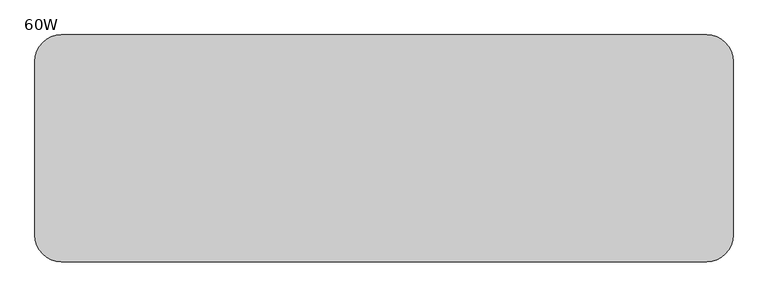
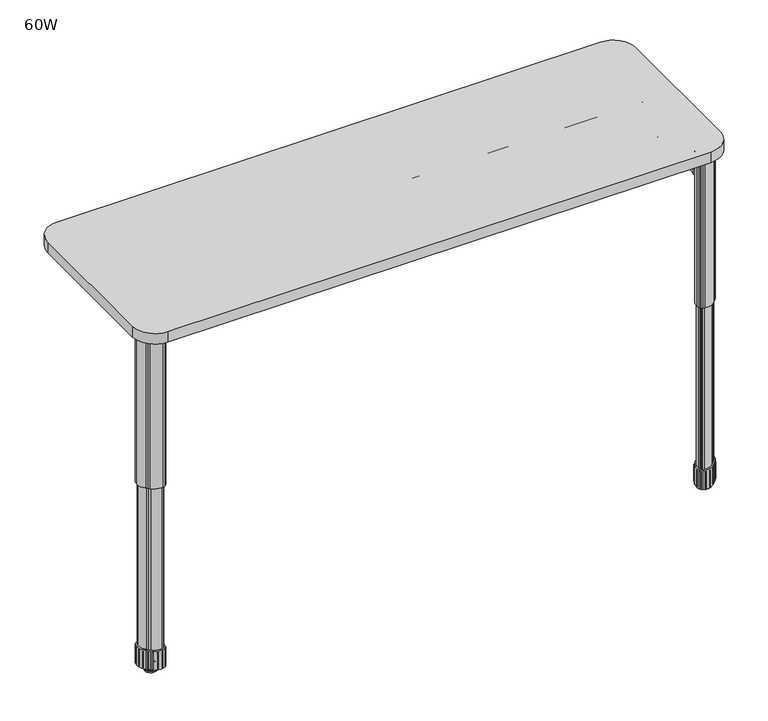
"""IFC4 building model written with IfcOpenShell, lengths in millimetres: furniture geometry, SmithSystem_AM_Table_Education_Interchange_Activity_20D : 60W."""

from ifc_helpers import new_model, si_unit, point, frame, frame_2d, origin, origin_with_axes, place, context, project, spatial, polyline, circle_curve, ellipse_curve, trimmed, segment, composite_curve, outline, extrude, source, transform, mapped, element, save
from ifc_brep_helpers import plane_surface, cylinder_surface, revolved_surface, advanced_brep


def furniture_60w_a7632f70(model_context):
    return source(origin(), model_context, "Body", "SolidModel", [
        extrude(outline(composite_curve([segment(polyline([(1453.4549731, 71.2321565), (1457.0470756, 74.824259), (1460.639178, 78.4163614)]), True, "CONTINUOUS"), segment(trimmed(circle_curve(frame_2d((1483.6806347, 55.3749047)), 32.5855406), [point((1460.639178, 78.4163614))], [point((1487.6518132, 87.7175576))], False, "CARTESIAN"), True, "CONTINUOUS"), segment(trimmed(circle_curve(frame_2d((1485.2540831, 68.1896136)), 19.6745954), [point((1487.6518132, 87.7175576))], [point((1492.8048334, 86.3576041))], False, "CARTESIAN"), True, "CONTINUOUS"), segment(trimmed(circle_curve(frame_2d((1489.3695797, 78.0919809)), 8.9510611), [point((1492.8048334, 86.3576041))], [point((1495.6989357, 84.4213369))], False, "CARTESIAN"), True, "CONTINUOUS"), segment(polyline([(1495.6989357, 84.4213369), (1496.4343195, 83.6859531), (1497.1697032, 82.9505693)]), True, "CONTINUOUS"), segment(trimmed(circle_curve(frame_2d((1490.8403472, 76.6212133)), 8.9510611), [point((1497.1697032, 82.9505693))], [point((1499.1059704, 80.056467))], False, "CARTESIAN"), True, "CONTINUOUS"), segment(trimmed(circle_curve(frame_2d((1480.93798, 72.5057168)), 19.6745954), [point((1499.1059704, 80.056467))], [point((1500.465924, 74.9034468))], False, "CARTESIAN"), True, "CONTINUOUS"), segment(trimmed(circle_curve(frame_2d((1468.123271, 70.9322684)), 32.5855406), [point((1500.465924, 74.9034468))], [point((1491.1647278, 47.8908116))], False, "CARTESIAN"), True, "CONTINUOUS"), segment(polyline([(1491.1647278, 47.8908116), (1487.5726253, 44.2987092), (1483.9805229, 40.7066067)]), True, "CONTINUOUS"), segment(trimmed(circle_curve(frame_2d((1460.9390661, 63.7480635)), 32.5855406), [point((1483.9805229, 40.7066067))], [point((1456.9678877, 31.4054105))], False, "CARTESIAN"), True, "CONTINUOUS"), segment(trimmed(circle_curve(frame_2d((1459.3656177, 50.9333545)), 19.6745954), [point((1456.9678877, 31.4054105))], [point((1451.8148675, 32.7653641))], False, "CARTESIAN"), True, "CONTINUOUS"), segment(trimmed(circle_curve(frame_2d((1455.2501212, 41.0309873)), 8.9510611), [point((1451.8148675, 32.7653641))], [point((1448.9207652, 34.7016313))], False, "CARTESIAN"), True, "CONTINUOUS"), segment(polyline([(1448.9207652, 34.7016313), (1448.1853814, 35.4370151), (1447.4499976, 36.1723988)]), True, "CONTINUOUS"), segment(trimmed(circle_curve(frame_2d((1453.7793536, 42.5017548)), 8.9510611), [point((1447.4499976, 36.1723988))], [point((1445.5137305, 39.0665011))], False, "CARTESIAN"), True, "CONTINUOUS"), segment(trimmed(circle_curve(frame_2d((1463.6817209, 46.6172514)), 19.6745954), [point((1445.5137305, 39.0665011))], [point((1444.1537769, 44.2195213))], False, "CARTESIAN"), True, "CONTINUOUS"), segment(trimmed(circle_curve(frame_2d((1476.4964298, 48.1906998)), 32.5855406), [point((1444.1537769, 44.2195213))], [point((1453.4549731, 71.2321565))], False, "CARTESIAN"), True, "CONTINUOUS")], self_intersect=False)), frame((0.0, 0.0, 12.7079691), z_axis=(0.0, 0.0, 1.0), x_axis=(1.0, 0.0, 0.0)), (0.0, 0.0, 1.0), 50.791766),
        extrude(outline(composite_curve([segment(trimmed(circle_curve(frame_2d((1472.3098504, 59.5614841)), 15.24), [point((1483.0861578, 70.3377914))], [point((1461.5335431, 48.7851767))], False, "CARTESIAN"), True, "CONTINUOUS"), segment(trimmed(circle_curve(frame_2d((1472.3098504, 59.5614841)), 15.24), [point((1461.5335431, 48.7851767))], [point((1483.0861578, 70.3377914))], False, "CARTESIAN"), True, "CONTINUOUS")], self_intersect=False)), origin_with_axes(), (0.0, 0.0, 1.0), 4.0499223),
        extrude(outline(composite_curve([segment(trimmed(circle_curve(frame_2d((1487.5726253, 44.2987092)), 1.27), [point((1488.4706509, 45.1967348))], [point((1486.6745997, 43.4006836))], False, "CARTESIAN"), True, "CONTINUOUS"), segment(polyline([(1486.6745997, 43.4006836), (1487.5726253, 44.2987092), (1488.4706509, 45.1967348)]), True, "CONTINUOUS")], self_intersect=False)), frame((0.0, 0.0, 16.2275456), z_axis=(0.0, 0.0, 1.0), x_axis=(1.0, 0.0, 0.0)), (0.0, 0.0, 1.0), 43.7457423),
        extrude(outline(composite_curve([segment(trimmed(circle_curve(frame_2d((1496.4080101, 83.6596437)), 1.27), [point((1495.5099845, 84.5576694))], [point((1497.3060357, 82.7616181))], False, "CARTESIAN"), True, "CONTINUOUS"), segment(polyline([(1497.3060357, 82.7616181), (1496.4080101, 83.6596437), (1495.5099845, 84.5576694)]), True, "CONTINUOUS")], self_intersect=False)), frame((0.0, 0.0, 16.2275456), z_axis=(0.0, 0.0, 1.0), x_axis=(1.0, 0.0, 0.0)), (0.0, 0.0, 1.0), 43.7457423),
        extrude(outline(composite_curve([segment(polyline([(1447.3136652, 36.36135), (1448.2116908, 35.4633244), (1449.1097164, 34.5652988)]), True, "CONTINUOUS"), segment(trimmed(circle_curve(frame_2d((1448.2116908, 35.4633244)), 1.27), [point((1449.1097164, 34.5652988))], [point((1447.3136652, 36.36135))], False, "CARTESIAN"), True, "CONTINUOUS")], self_intersect=False)), frame((0.0, 0.0, 16.2275456), z_axis=(0.0, 0.0, 1.0), x_axis=(1.0, 0.0, 0.0)), (0.0, 0.0, 1.0), 43.7457423),
        extrude(outline(composite_curve([segment(polyline([(1456.8120338, 31.4439485), (1458.0779787, 31.3425404), (1459.3439236, 31.2411324)]), True, "CONTINUOUS"), segment(trimmed(circle_curve(frame_2d((1458.0779787, 31.3425404)), 1.27), [point((1459.3439236, 31.2411324))], [point((1456.8120338, 31.4439485))], False, "CARTESIAN"), True, "CONTINUOUS")], self_intersect=False)), frame((0.0, 0.0, 16.2275456), z_axis=(0.0, 0.0, 1.0), x_axis=(1.0, 0.0, 0.0)), (0.0, 0.0, 1.0), 43.7457423),
        extrude(outline(composite_curve([segment(polyline([(1467.8909581, 31.960326), (1469.1209477, 32.2765941), (1470.3509373, 32.5928623)]), True, "CONTINUOUS"), segment(trimmed(circle_curve(frame_2d((1469.1209477, 32.2765941)), 1.27), [point((1470.3509373, 32.5928623))], [point((1467.8909581, 31.960326))], False, "CARTESIAN"), True, "CONTINUOUS")], self_intersect=False)), frame((0.0, 0.0, 16.2275456), z_axis=(0.0, 0.0, 1.0), x_axis=(1.0, 0.0, 0.0)), (0.0, 0.0, 1.0), 43.7457423),
        extrude(outline(composite_curve([segment(polyline([(1478.2294057, 36.1581671), (1479.2770478, 36.8760432), (1480.3246899, 37.5939193)]), True, "CONTINUOUS"), segment(trimmed(circle_curve(frame_2d((1479.2770478, 36.8760432)), 1.27), [point((1480.3246899, 37.5939193))], [point((1478.2294057, 36.1581671))], False, "CARTESIAN"), True, "CONTINUOUS")], self_intersect=False)), frame((0.0, 0.0, 16.2275456), z_axis=(0.0, 0.0, 1.0), x_axis=(1.0, 0.0, 0.0)), (0.0, 0.0, 1.0), 43.7457423),
        extrude(outline(composite_curve([segment(trimmed(circle_curve(frame_2d((1500.5287941, 73.7933558)), 1.27), [point((1500.427386, 75.0593007))], [point((1500.6302021, 72.5274109))], False, "CARTESIAN"), True, "CONTINUOUS"), segment(polyline([(1500.6302021, 72.5274109), (1500.5287941, 73.7933558), (1500.427386, 75.0593007)]), True, "CONTINUOUS")], self_intersect=False)), frame((0.0, 0.0, 16.2275456), z_axis=(0.0, 0.0, 1.0), x_axis=(1.0, 0.0, 0.0)), (0.0, 0.0, 1.0), 43.7457423),
        extrude(outline(composite_curve([segment(trimmed(circle_curve(frame_2d((1499.5947404, 62.7503868)), 1.27), [point((1499.9110085, 63.9803764))], [point((1499.2784722, 61.5203972))], False, "CARTESIAN"), True, "CONTINUOUS"), segment(polyline([(1499.2784722, 61.5203972), (1499.5947404, 62.7503868), (1499.9110085, 63.9803764)]), True, "CONTINUOUS")], self_intersect=False)), frame((0.0, 0.0, 16.2275456), z_axis=(0.0, 0.0, 1.0), x_axis=(1.0, 0.0, 0.0)), (0.0, 0.0, 1.0), 43.7457423),
        extrude(outline(composite_curve([segment(trimmed(circle_curve(frame_2d((1494.9952913, 52.5942867)), 1.27), [point((1495.7131674, 53.6419288))], [point((1494.2774152, 51.5466446))], False, "CARTESIAN"), True, "CONTINUOUS"), segment(polyline([(1494.2774152, 51.5466446), (1494.9952913, 52.5942867), (1495.7131674, 53.6419288)]), True, "CONTINUOUS")], self_intersect=False)), frame((0.0, 0.0, 16.2275456), z_axis=(0.0, 0.0, 1.0), x_axis=(1.0, 0.0, 0.0)), (0.0, 0.0, 1.0), 43.7457423),
        extrude(outline(composite_curve([segment(polyline([(1457.9451012, 75.7222846), (1457.0470756, 74.824259), (1456.1490499, 73.9262333)]), True, "CONTINUOUS"), segment(trimmed(circle_curve(frame_2d((1457.0470756, 74.824259)), 1.27), [point((1456.1490499, 73.9262333))], [point((1457.9451012, 75.7222846))], False, "CARTESIAN"), True, "CONTINUOUS")], self_intersect=False)), frame((0.0, 0.0, 16.2275456), z_axis=(0.0, 0.0, 1.0), x_axis=(1.0, 0.0, 0.0)), (0.0, 0.0, 1.0), 43.7457423),
        extrude(outline(composite_curve([segment(trimmed(circle_curve(frame_2d((1444.0909068, 45.3296123)), 1.27), [point((1444.1923149, 44.0636675))], [point((1443.9894988, 46.5955572))], False, "CARTESIAN"), True, "CONTINUOUS"), segment(polyline([(1443.9894988, 46.5955572), (1444.0909068, 45.3296123), (1444.1923149, 44.0636675)]), True, "CONTINUOUS")], self_intersect=False)), frame((0.0, 0.0, 16.2275456), z_axis=(0.0, 0.0, 1.0), x_axis=(1.0, 0.0, 0.0)), (0.0, 0.0, 1.0), 43.7457423),
        extrude(outline(composite_curve([segment(trimmed(circle_curve(frame_2d((1445.0249605, 56.3725813)), 1.27), [point((1444.7086924, 55.1425917))], [point((1445.3412287, 57.602571))], False, "CARTESIAN"), True, "CONTINUOUS"), segment(polyline([(1445.3412287, 57.602571), (1445.0249605, 56.3725813), (1444.7086924, 55.1425917)]), True, "CONTINUOUS")], self_intersect=False)), frame((0.0, 0.0, 16.2275456), z_axis=(0.0, 0.0, 1.0), x_axis=(1.0, 0.0, 0.0)), (0.0, 0.0, 1.0), 43.7457423),
        extrude(outline(composite_curve([segment(trimmed(circle_curve(frame_2d((1449.6244096, 66.5286815)), 1.27), [point((1448.9065335, 65.4810394))], [point((1450.3422857, 67.5763235))], False, "CARTESIAN"), True, "CONTINUOUS"), segment(polyline([(1450.3422857, 67.5763235), (1449.6244096, 66.5286815), (1448.9065335, 65.4810394)]), True, "CONTINUOUS")], self_intersect=False)), frame((0.0, 0.0, 16.2275456), z_axis=(0.0, 0.0, 1.0), x_axis=(1.0, 0.0, 0.0)), (0.0, 0.0, 1.0), 43.7457423),
        extrude(outline(composite_curve([segment(polyline([(1487.807667, 87.6790197), (1486.5417222, 87.7804277), (1485.2757773, 87.8818357)]), True, "CONTINUOUS"), segment(trimmed(circle_curve(frame_2d((1486.5417222, 87.7804277)), 1.27), [point((1485.2757773, 87.8818357))], [point((1487.807667, 87.6790197))], False, "CARTESIAN"), True, "CONTINUOUS")], self_intersect=False)), frame((0.0, 0.0, 16.2275456), z_axis=(0.0, 0.0, 1.0), x_axis=(1.0, 0.0, 0.0)), (0.0, 0.0, 1.0), 43.7457423),
        extrude(outline(composite_curve([segment(polyline([(1476.7287428, 87.1626422), (1475.4987532, 86.846374), (1474.2687635, 86.5301059)]), True, "CONTINUOUS"), segment(trimmed(circle_curve(frame_2d((1475.4987532, 86.846374)), 1.27), [point((1474.2687635, 86.5301059))], [point((1476.7287428, 87.1626422))], False, "CARTESIAN"), True, "CONTINUOUS")], self_intersect=False)), frame((0.0, 0.0, 16.2275456), z_axis=(0.0, 0.0, 1.0), x_axis=(1.0, 0.0, 0.0)), (0.0, 0.0, 1.0), 43.7457423),
        extrude(outline(composite_curve([segment(polyline([(1466.3902951, 82.964801), (1465.3426531, 82.2469249), (1464.295011, 81.5290489)]), True, "CONTINUOUS"), segment(trimmed(circle_curve(frame_2d((1465.3426531, 82.2469249)), 1.27), [point((1464.295011, 81.5290489))], [point((1466.3902951, 82.964801))], False, "CARTESIAN"), True, "CONTINUOUS")], self_intersect=False)), frame((0.0, 0.0, 16.2275456), z_axis=(0.0, 0.0, 1.0), x_axis=(1.0, 0.0, 0.0)), (0.0, 0.0, 1.0), 43.7457423),
        extrude(outline(composite_curve([segment(trimmed(circle_curve(frame_2d((1483.6806347, 55.3749047)), 28.7755406), [point((1463.3332548, 75.7222846))], [point((1487.187491, 83.9359568))], False, "CARTESIAN"), True, "CONTINUOUS"), segment(trimmed(circle_curve(frame_2d((1485.2540831, 68.1896136)), 15.8645954), [point((1487.187491, 83.9359568))], [point((1491.342625, 82.8393592))], False, "CARTESIAN"), True, "CONTINUOUS"), segment(trimmed(circle_curve(frame_2d((1489.3695797, 78.0919809)), 5.1410611), [point((1491.342625, 82.8393592))], [point((1493.0048588, 81.72726))], False, "CARTESIAN"), True, "CONTINUOUS"), segment(polyline([(1493.0048588, 81.72726), (1493.7402426, 80.9918762), (1494.4756264, 80.2564925)]), True, "CONTINUOUS"), segment(trimmed(circle_curve(frame_2d((1490.8403472, 76.6212133)), 5.1410611), [point((1494.4756264, 80.2564925))], [point((1495.5877256, 78.5942586))], False, "CARTESIAN"), True, "CONTINUOUS"), segment(trimmed(circle_curve(frame_2d((1480.93798, 72.5057168)), 15.8645954), [point((1495.5877256, 78.5942586))], [point((1496.6843231, 74.4391246))], False, "CARTESIAN"), True, "CONTINUOUS"), segment(trimmed(circle_curve(frame_2d((1468.123271, 70.9322684)), 28.7755406), [point((1496.6843231, 74.4391246))], [point((1488.4706509, 50.5848885))], False, "CARTESIAN"), True, "CONTINUOUS"), segment(polyline([(1488.4706509, 50.5848885), (1484.8785485, 46.992786), (1481.286446, 43.4006836)]), True, "CONTINUOUS"), segment(trimmed(circle_curve(frame_2d((1460.9390661, 63.7480635)), 28.7755406), [point((1481.286446, 43.4006836))], [point((1457.4322099, 35.1870114))], False, "CARTESIAN"), True, "CONTINUOUS"), segment(trimmed(circle_curve(frame_2d((1459.3656177, 50.9333545)), 15.8645954), [point((1457.4322099, 35.1870114))], [point((1453.2770759, 36.2836089))], False, "CARTESIAN"), True, "CONTINUOUS"), segment(trimmed(circle_curve(frame_2d((1455.2501212, 41.0309873)), 5.1410611), [point((1453.2770759, 36.2836089))], [point((1451.614842, 37.3957081))], False, "CARTESIAN"), True, "CONTINUOUS"), segment(polyline([(1451.614842, 37.3957081), (1450.8794583, 38.1310919), (1450.1440745, 38.8664757)]), True, "CONTINUOUS"), segment(trimmed(circle_curve(frame_2d((1453.7793536, 42.5017548)), 5.1410611), [point((1450.1440745, 38.8664757))], [point((1449.0319753, 40.5287095))], False, "CARTESIAN"), True, "CONTINUOUS"), segment(trimmed(circle_curve(frame_2d((1463.6817209, 46.6172514)), 15.8645954), [point((1449.0319753, 40.5287095))], [point((1447.9353777, 44.6838435))], False, "CARTESIAN"), True, "CONTINUOUS"), segment(trimmed(circle_curve(frame_2d((1476.4964298, 48.1906998)), 28.7755406), [point((1447.9353777, 44.6838435))], [point((1456.1490499, 68.5380797))], False, "CARTESIAN"), True, "CONTINUOUS"), segment(polyline([(1456.1490499, 68.5380797), (1459.7411524, 72.1301821), (1463.3332548, 75.7222846)]), True, "CONTINUOUS")], self_intersect=False)), frame((0.0, 0.0, 63.4997351), z_axis=(0.0, 0.0, 1.0), x_axis=(1.0, 0.0, 0.0)), (0.0, 0.0, 1.0), 440.4486802),
        extrude(outline(composite_curve([segment(trimmed(circle_curve(frame_2d((1460.9390661, 63.7480635)), 32.5855406), [point((1483.9805229, 40.7066067))], [point((1456.9678877, 31.4054105))], False, "CARTESIAN"), True, "CONTINUOUS"), segment(trimmed(circle_curve(frame_2d((1459.3656177, 50.9333545)), 19.6745954), [point((1456.9678877, 31.4054105))], [point((1451.8148675, 32.7653641))], False, "CARTESIAN"), True, "CONTINUOUS"), segment(trimmed(circle_curve(frame_2d((1455.2501212, 41.0309873)), 8.9510611), [point((1451.8148675, 32.7653641))], [point((1448.9207652, 34.7016313))], False, "CARTESIAN"), True, "CONTINUOUS"), segment(polyline([(1448.9207652, 34.7016313), (1448.1853814, 35.4370151), (1447.4499976, 36.1723988)]), True, "CONTINUOUS"), segment(trimmed(circle_curve(frame_2d((1453.7793536, 42.5017548)), 8.9510611), [point((1447.4499976, 36.1723988))], [point((1445.5137305, 39.0665011))], False, "CARTESIAN"), True, "CONTINUOUS"), segment(trimmed(circle_curve(frame_2d((1463.6817209, 46.6172514)), 19.6745954), [point((1445.5137305, 39.0665011))], [point((1444.1537769, 44.2195213))], False, "CARTESIAN"), True, "CONTINUOUS"), segment(trimmed(circle_curve(frame_2d((1476.4964298, 48.1906998)), 32.5855406), [point((1444.1537769, 44.2195213))], [point((1453.4549731, 71.2321565))], False, "CARTESIAN"), True, "CONTINUOUS"), segment(polyline([(1453.4549731, 71.2321565), (1457.0470756, 74.824259), (1460.639178, 78.4163614)]), True, "CONTINUOUS"), segment(trimmed(circle_curve(frame_2d((1483.6806347, 55.3749047)), 32.5855406), [point((1460.639178, 78.4163614))], [point((1487.6518132, 87.7175576))], False, "CARTESIAN"), True, "CONTINUOUS"), segment(trimmed(circle_curve(frame_2d((1485.2540831, 68.1896136)), 19.6745954), [point((1487.6518132, 87.7175576))], [point((1492.8048334, 86.3576041))], False, "CARTESIAN"), True, "CONTINUOUS"), segment(trimmed(circle_curve(frame_2d((1489.3695797, 78.0919809)), 8.9510611), [point((1492.8048334, 86.3576041))], [point((1495.6989357, 84.4213369))], False, "CARTESIAN"), True, "CONTINUOUS"), segment(polyline([(1495.6989357, 84.4213369), (1496.4343195, 83.6859531), (1497.1697032, 82.9505693)]), True, "CONTINUOUS"), segment(trimmed(circle_curve(frame_2d((1490.8403472, 76.6212133)), 8.9510611), [point((1497.1697032, 82.9505693))], [point((1499.1059704, 80.056467))], False, "CARTESIAN"), True, "CONTINUOUS"), segment(trimmed(circle_curve(frame_2d((1480.93798, 72.5057168)), 19.6745954), [point((1499.1059704, 80.056467))], [point((1500.465924, 74.9034468))], False, "CARTESIAN"), True, "CONTINUOUS"), segment(trimmed(circle_curve(frame_2d((1468.123271, 70.9322684)), 32.5855406), [point((1500.465924, 74.9034468))], [point((1491.1647278, 47.8908116))], False, "CARTESIAN"), True, "CONTINUOUS"), segment(polyline([(1491.1647278, 47.8908116), (1487.5726253, 44.2987092), (1483.9805229, 40.7066067)]), True, "CONTINUOUS")], self_intersect=False)), frame((0.0, 0.0, 503.9484153), z_axis=(0.0, 0.0, 1.0), x_axis=(1.0, 0.0, 0.0)), (0.0, 0.0, 1.0), 405.2764888),
        extrude(outline(polyline([(1473.606676, 85.1609527), (1446.7650478, 58.3193245), (1443.4201876, 61.6641848), (1470.2618157, 88.5058129), (1473.606676, 85.1609527)])), frame((0.0, 0.0, 853.198382), z_axis=(0.0, 0.0, 1.0), x_axis=(1.0, 0.0, 0.0)), (0.0, 0.0, 1.0), 56.0265221),
        advanced_brep(
        [(40.9483, 49.1331837, 4.0499223), (61.8049007, 69.9897844, 4.0499223), (51.3766004, 59.5614841, 4.0499223), (39.1522488, 47.3371325, 6.5899223), (63.6009519, 71.7858356, 6.5899223), (39.1522488, 47.3371325, 10.1679691), (63.6009519, 71.7858356, 10.1679691), (40.9483, 49.1331837, 12.7079691), (61.8049007, 69.9897844, 12.7079691), (51.3766004, 59.5614841, 12.7079691)],
        [
            (0, 1, circle_curve(frame((51.3766004, 59.5614841, 4.0499223), z_axis=(0.0, 0.0, -1.0), x_axis=(0.7071067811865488, 0.7071067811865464, 0.0)), 14.7478438)),
            (1, 2),
            (2, 0),
            (1, 0, circle_curve(frame((51.3766004, 59.5614841, 4.0499223), z_axis=(0.0, 0.0, -1.0), x_axis=(0.7071067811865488, 0.7071067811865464, 0.0)), 14.7478438)),
            (3, 4, circle_curve(frame((51.3766004, 59.5614841, 6.5899223), z_axis=(0.0, 0.0, -1.0), x_axis=(0.7071067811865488, 0.7071067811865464, 0.0)), 17.2878438)),
            (4, 1, circle_curve(frame((61.8049007, 69.9897844, 6.5899223), z_axis=(-0.7071067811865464, 0.7071067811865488, 0.0), x_axis=(0.7071067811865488, 0.7071067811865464, 0.0)), 2.54)),
            (0, 3, circle_curve(frame((40.9483, 49.1331837, 6.5899223), z_axis=(-0.707106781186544, 0.7071067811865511, 0.0), x_axis=(-0.7071067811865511, -0.707106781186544, 0.0)), 2.54)),
            (4, 3, circle_curve(frame((51.3766004, 59.5614841, 6.5899223), z_axis=(0.0, 0.0, -1.0), x_axis=(0.7071067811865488, 0.7071067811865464, 0.0)), 17.2878438)),
            (5, 6, circle_curve(frame((51.3766004, 59.5614841, 10.1679691), z_axis=(0.0, 0.0, -1.0), x_axis=(0.7071067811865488, 0.7071067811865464, 0.0)), 17.2878438)),
            (6, 4),
            (3, 5),
            (6, 5, circle_curve(frame((51.3766004, 59.5614841, 10.1679691), z_axis=(0.0, 0.0, -1.0), x_axis=(0.7071067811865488, 0.7071067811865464, 0.0)), 17.2878438)),
            (7, 8, circle_curve(frame((51.3766004, 59.5614841, 12.7079691), z_axis=(0.0, 0.0, -1.0), x_axis=(0.7071067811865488, 0.7071067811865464, 0.0)), 14.7478438)),
            (8, 6, circle_curve(frame((61.8049007, 69.9897844, 10.1679691), z_axis=(-0.7071067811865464, 0.7071067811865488, 0.0), x_axis=(0.7071067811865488, 0.7071067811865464, 0.0)), 2.54)),
            (5, 7, circle_curve(frame((40.9483, 49.1331837, 10.1679691), z_axis=(-0.707106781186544, 0.7071067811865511, 0.0), x_axis=(-0.7071067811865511, -0.707106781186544, 0.0)), 2.54)),
            (8, 7, circle_curve(frame((51.3766004, 59.5614841, 12.7079691), z_axis=(0.0, 0.0, -1.0), x_axis=(0.7071067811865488, 0.7071067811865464, 0.0)), 14.7478438)),
            (9, 8),
            (7, 9),
        ],
        [
            plane_surface(frame((51.3766004, 59.5614841, 4.0499223), z_axis=(0.0, 0.0, -1.0), x_axis=(0.7071067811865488, 0.7071067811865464, 0.0))),
            revolved_surface(trimmed(ellipse_curve(frame((61.8049007, 69.9897844, 6.5899223), z_axis=(0.7071067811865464, -0.7071067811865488, 0.0), x_axis=(0.7071067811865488, 0.7071067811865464, 0.0)), 2.54, 2.54), [point((61.8049007, 69.9897844, 4.0499223))], [point((63.6009519, 71.7858356, 6.5899223))], True, "CARTESIAN"), (51.3766004, 59.5614841, 3.1355675), (0.0, 0.0, 1.0)),
            cylinder_surface(frame((51.3766004, 59.5614841, 3.1355675), z_axis=(0.0, 0.0, 1.0), x_axis=(0.7071067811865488, 0.7071067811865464, 0.0)), 17.2878438),
            revolved_surface(trimmed(ellipse_curve(frame((61.8049007, 69.9897844, 10.1679691), z_axis=(0.7071067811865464, -0.7071067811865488, 0.0), x_axis=(0.7071067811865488, 0.7071067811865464, 0.0)), 2.54, 2.54), [point((63.6009519, 71.7858356, 10.1679691))], [point((61.8049007, 69.9897844, 12.7079691))], True, "CARTESIAN"), (51.3766004, 59.5614841, 3.1355675), (0.0, 0.0, 1.0)),
            plane_surface(frame((51.3766004, 59.5614841, 12.7079691), z_axis=(0.0, 0.0, 1.0), x_axis=(0.7071067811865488, 0.7071067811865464, 0.0))),
        ],
        [
            (0, [[1, 2, 3]]),
            (0, [[4, -3, -2]]),
            (1, [[5, 6, -1, 7]]),
            (1, [[8, -7, -4, -6]]),
            (2, [[9, 10, -5, 11]]),
            (2, [[12, -11, -8, -10]]),
            (3, [[13, 14, -9, 15]]),
            (3, [[16, -15, -12, -14]]),
            (4, [[17, -13, 18]]),
            (4, [[-18, -16, -17]]),
        ],
    ),
        extrude(outline(composite_curve([segment(trimmed(circle_curve(frame_2d((47.190021, 48.1906998)), 32.5855406), [point((70.2314777, 71.2321565))], [point((79.5326739, 44.2195213))], False, "CARTESIAN"), True, "CONTINUOUS"), segment(trimmed(circle_curve(frame_2d((60.0047299, 46.6172514)), 19.6745954), [point((79.5326739, 44.2195213))], [point((78.1727203, 39.0665011))], False, "CARTESIAN"), True, "CONTINUOUS"), segment(trimmed(circle_curve(frame_2d((69.9070972, 42.5017548)), 8.9510611), [point((78.1727203, 39.0665011))], [point((76.2364532, 36.1723988))], False, "CARTESIAN"), True, "CONTINUOUS"), segment(polyline([(76.2364532, 36.1723988), (75.5010694, 35.4370151), (74.7656856, 34.7016313)]), True, "CONTINUOUS"), segment(trimmed(circle_curve(frame_2d((68.4363296, 41.0309873)), 8.9510611), [point((74.7656856, 34.7016313))], [point((71.8715833, 32.7653641))], False, "CARTESIAN"), True, "CONTINUOUS"), segment(trimmed(circle_curve(frame_2d((64.3208331, 50.9333545)), 19.6745954), [point((71.8715833, 32.7653641))], [point((66.7185631, 31.4054105))], False, "CARTESIAN"), True, "CONTINUOUS"), segment(trimmed(circle_curve(frame_2d((62.7473847, 63.7480635)), 32.5855406), [point((66.7185631, 31.4054105))], [point((39.7059279, 40.7066067))], False, "CARTESIAN"), True, "CONTINUOUS"), segment(polyline([(39.7059279, 40.7066067), (36.1138255, 44.2987092), (32.521723, 47.8908116)]), True, "CONTINUOUS"), segment(trimmed(circle_curve(frame_2d((55.5631798, 70.9322684)), 32.5855406), [point((32.521723, 47.8908116))], [point((23.2205268, 74.9034468))], False, "CARTESIAN"), True, "CONTINUOUS"), segment(trimmed(circle_curve(frame_2d((42.7484708, 72.5057168)), 19.6745954), [point((23.2205268, 74.9034468))], [point((24.5804804, 80.056467))], False, "CARTESIAN"), True, "CONTINUOUS"), segment(trimmed(circle_curve(frame_2d((32.8461036, 76.6212133)), 8.9510611), [point((24.5804804, 80.056467))], [point((26.5167476, 82.9505693))], False, "CARTESIAN"), True, "CONTINUOUS"), segment(polyline([(26.5167476, 82.9505693), (27.2521313, 83.6859531), (27.9875151, 84.4213369)]), True, "CONTINUOUS"), segment(trimmed(circle_curve(frame_2d((34.3168711, 78.0919809)), 8.9510611), [point((27.9875151, 84.4213369))], [point((30.8816174, 86.3576041))], False, "CARTESIAN"), True, "CONTINUOUS"), segment(trimmed(circle_curve(frame_2d((38.4323677, 68.1896136)), 19.6745954), [point((30.8816174, 86.3576041))], [point((36.0346376, 87.7175576))], False, "CARTESIAN"), True, "CONTINUOUS"), segment(trimmed(circle_curve(frame_2d((40.0058161, 55.3749047)), 32.5855406), [point((36.0346376, 87.7175576))], [point((63.0472728, 78.4163614))], False, "CARTESIAN"), True, "CONTINUOUS"), segment(polyline([(63.0472728, 78.4163614), (66.6393752, 74.824259), (70.2314777, 71.2321565)]), True, "CONTINUOUS")], self_intersect=False)), frame((0.0, 0.0, 12.7079691), z_axis=(0.0, 0.0, 1.0), x_axis=(1.0, 0.0, 0.0)), (0.0, 0.0, 1.0), 50.791766),
        extrude(outline(composite_curve([segment(trimmed(circle_curve(frame_2d((51.3766004, 59.5614841)), 15.24), [point((40.600293, 70.3377914))], [point((62.1529077, 48.7851767))], False, "CARTESIAN"), True, "CONTINUOUS"), segment(trimmed(circle_curve(frame_2d((51.3766004, 59.5614841)), 15.24), [point((62.1529077, 48.7851767))], [point((40.600293, 70.3377914))], False, "CARTESIAN"), True, "CONTINUOUS")], self_intersect=False)), origin_with_axes(), (0.0, 0.0, 1.0), 4.0499223),
        extrude(outline(composite_curve([segment(polyline([(35.2157999, 45.1967348), (36.1138255, 44.2987092), (37.0118511, 43.4006836)]), True, "CONTINUOUS"), segment(trimmed(circle_curve(frame_2d((36.1138255, 44.2987092)), 1.27), [point((37.0118511, 43.4006836))], [point((35.2157999, 45.1967348))], False, "CARTESIAN"), True, "CONTINUOUS")], self_intersect=False)), frame((0.0, 0.0, 16.2275456), z_axis=(0.0, 0.0, 1.0), x_axis=(1.0, 0.0, 0.0)), (0.0, 0.0, 1.0), 43.7457423),
        extrude(outline(composite_curve([segment(polyline([(28.1764663, 84.5576694), (27.2784407, 83.6596437), (26.3804151, 82.7616181)]), True, "CONTINUOUS"), segment(trimmed(circle_curve(frame_2d((27.2784407, 83.6596437)), 1.27), [point((26.3804151, 82.7616181))], [point((28.1764663, 84.5576694))], False, "CARTESIAN"), True, "CONTINUOUS")], self_intersect=False)), frame((0.0, 0.0, 16.2275456), z_axis=(0.0, 0.0, 1.0), x_axis=(1.0, 0.0, 0.0)), (0.0, 0.0, 1.0), 43.7457423),
        extrude(outline(composite_curve([segment(trimmed(circle_curve(frame_2d((75.47476, 35.4633244)), 1.27), [point((76.3727856, 36.36135))], [point((74.5767344, 34.5652988))], False, "CARTESIAN"), True, "CONTINUOUS"), segment(polyline([(74.5767344, 34.5652988), (75.47476, 35.4633244), (76.3727856, 36.36135)]), True, "CONTINUOUS")], self_intersect=False)), frame((0.0, 0.0, 16.2275456), z_axis=(0.0, 0.0, 1.0), x_axis=(1.0, 0.0, 0.0)), (0.0, 0.0, 1.0), 43.7457423),
        extrude(outline(composite_curve([segment(trimmed(circle_curve(frame_2d((65.6084721, 31.3425404)), 1.27), [point((66.874417, 31.4439485))], [point((64.3425272, 31.2411324))], False, "CARTESIAN"), True, "CONTINUOUS"), segment(polyline([(64.3425272, 31.2411324), (65.6084721, 31.3425404), (66.874417, 31.4439485)]), True, "CONTINUOUS")], self_intersect=False)), frame((0.0, 0.0, 16.2275456), z_axis=(0.0, 0.0, 1.0), x_axis=(1.0, 0.0, 0.0)), (0.0, 0.0, 1.0), 43.7457423),
        extrude(outline(composite_curve([segment(trimmed(circle_curve(frame_2d((54.5655031, 32.2765941)), 1.27), [point((55.7954927, 31.960326))], [point((53.3355135, 32.5928623))], False, "CARTESIAN"), True, "CONTINUOUS"), segment(polyline([(53.3355135, 32.5928623), (54.5655031, 32.2765941), (55.7954927, 31.960326)]), True, "CONTINUOUS")], self_intersect=False)), frame((0.0, 0.0, 16.2275456), z_axis=(0.0, 0.0, 1.0), x_axis=(1.0, 0.0, 0.0)), (0.0, 0.0, 1.0), 43.7457423),
        extrude(outline(composite_curve([segment(trimmed(circle_curve(frame_2d((44.409403, 36.8760432)), 1.27), [point((45.4570451, 36.1581671))], [point((43.3617609, 37.5939193))], False, "CARTESIAN"), True, "CONTINUOUS"), segment(polyline([(43.3617609, 37.5939193), (44.409403, 36.8760432), (45.4570451, 36.1581671)]), True, "CONTINUOUS")], self_intersect=False)), frame((0.0, 0.0, 16.2275456), z_axis=(0.0, 0.0, 1.0), x_axis=(1.0, 0.0, 0.0)), (0.0, 0.0, 1.0), 43.7457423),
        extrude(outline(composite_curve([segment(polyline([(23.2590648, 75.0593007), (23.1576567, 73.7933558), (23.0562487, 72.5274109)]), True, "CONTINUOUS"), segment(trimmed(circle_curve(frame_2d((23.1576567, 73.7933558)), 1.27), [point((23.0562487, 72.5274109))], [point((23.2590648, 75.0593007))], False, "CARTESIAN"), True, "CONTINUOUS")], self_intersect=False)), frame((0.0, 0.0, 16.2275456), z_axis=(0.0, 0.0, 1.0), x_axis=(1.0, 0.0, 0.0)), (0.0, 0.0, 1.0), 43.7457423),
        extrude(outline(composite_curve([segment(polyline([(23.7754423, 63.9803764), (24.0917104, 62.7503868), (24.4079786, 61.5203972)]), True, "CONTINUOUS"), segment(trimmed(circle_curve(frame_2d((24.0917104, 62.7503868)), 1.27), [point((24.4079786, 61.5203972))], [point((23.7754423, 63.9803764))], False, "CARTESIAN"), True, "CONTINUOUS")], self_intersect=False)), frame((0.0, 0.0, 16.2275456), z_axis=(0.0, 0.0, 1.0), x_axis=(1.0, 0.0, 0.0)), (0.0, 0.0, 1.0), 43.7457423),
        extrude(outline(composite_curve([segment(polyline([(27.9732834, 53.6419288), (28.6911595, 52.5942867), (29.4090356, 51.5466446)]), True, "CONTINUOUS"), segment(trimmed(circle_curve(frame_2d((28.6911595, 52.5942867)), 1.27), [point((29.4090356, 51.5466446))], [point((27.9732834, 53.6419288))], False, "CARTESIAN"), True, "CONTINUOUS")], self_intersect=False)), frame((0.0, 0.0, 16.2275456), z_axis=(0.0, 0.0, 1.0), x_axis=(1.0, 0.0, 0.0)), (0.0, 0.0, 1.0), 43.7457423),
        extrude(outline(composite_curve([segment(trimmed(circle_curve(frame_2d((66.6393752, 74.824259)), 1.27), [point((65.7413496, 75.7222846))], [point((67.5374009, 73.9262333))], False, "CARTESIAN"), True, "CONTINUOUS"), segment(polyline([(67.5374009, 73.9262333), (66.6393752, 74.824259), (65.7413496, 75.7222846)]), True, "CONTINUOUS")], self_intersect=False)), frame((0.0, 0.0, 16.2275456), z_axis=(0.0, 0.0, 1.0), x_axis=(1.0, 0.0, 0.0)), (0.0, 0.0, 1.0), 43.7457423),
        extrude(outline(composite_curve([segment(polyline([(79.4941359, 44.0636675), (79.595544, 45.3296123), (79.696952, 46.5955572)]), True, "CONTINUOUS"), segment(trimmed(circle_curve(frame_2d((79.595544, 45.3296123)), 1.27), [point((79.696952, 46.5955572))], [point((79.4941359, 44.0636675))], False, "CARTESIAN"), True, "CONTINUOUS")], self_intersect=False)), frame((0.0, 0.0, 16.2275456), z_axis=(0.0, 0.0, 1.0), x_axis=(1.0, 0.0, 0.0)), (0.0, 0.0, 1.0), 43.7457423),
        extrude(outline(composite_curve([segment(polyline([(78.9777584, 55.1425917), (78.6614903, 56.3725813), (78.3452221, 57.602571)]), True, "CONTINUOUS"), segment(trimmed(circle_curve(frame_2d((78.6614903, 56.3725813)), 1.27), [point((78.3452221, 57.602571))], [point((78.9777584, 55.1425917))], False, "CARTESIAN"), True, "CONTINUOUS")], self_intersect=False)), frame((0.0, 0.0, 16.2275456), z_axis=(0.0, 0.0, 1.0), x_axis=(1.0, 0.0, 0.0)), (0.0, 0.0, 1.0), 43.7457423),
        extrude(outline(composite_curve([segment(polyline([(74.7799173, 65.4810394), (74.0620412, 66.5286815), (73.3441651, 67.5763235)]), True, "CONTINUOUS"), segment(trimmed(circle_curve(frame_2d((74.0620412, 66.5286815)), 1.27), [point((73.3441651, 67.5763235))], [point((74.7799173, 65.4810394))], False, "CARTESIAN"), True, "CONTINUOUS")], self_intersect=False)), frame((0.0, 0.0, 16.2275456), z_axis=(0.0, 0.0, 1.0), x_axis=(1.0, 0.0, 0.0)), (0.0, 0.0, 1.0), 43.7457423),
        extrude(outline(composite_curve([segment(trimmed(circle_curve(frame_2d((37.1447286, 87.7804277)), 1.27), [point((35.8787838, 87.6790197))], [point((38.4106735, 87.8818357))], False, "CARTESIAN"), True, "CONTINUOUS"), segment(polyline([(38.4106735, 87.8818357), (37.1447286, 87.7804277), (35.8787838, 87.6790197)]), True, "CONTINUOUS")], self_intersect=False)), frame((0.0, 0.0, 16.2275456), z_axis=(0.0, 0.0, 1.0), x_axis=(1.0, 0.0, 0.0)), (0.0, 0.0, 1.0), 43.7457423),
        extrude(outline(composite_curve([segment(trimmed(circle_curve(frame_2d((48.1876976, 86.846374)), 1.27), [point((46.957708, 87.1626422))], [point((49.4176872, 86.5301059))], False, "CARTESIAN"), True, "CONTINUOUS"), segment(polyline([(49.4176872, 86.5301059), (48.1876976, 86.846374), (46.957708, 87.1626422)]), True, "CONTINUOUS")], self_intersect=False)), frame((0.0, 0.0, 16.2275456), z_axis=(0.0, 0.0, 1.0), x_axis=(1.0, 0.0, 0.0)), (0.0, 0.0, 1.0), 43.7457423),
        extrude(outline(composite_curve([segment(trimmed(circle_curve(frame_2d((58.3437977, 82.2469249)), 1.27), [point((57.2961557, 82.964801))], [point((59.3914398, 81.5290489))], False, "CARTESIAN"), True, "CONTINUOUS"), segment(polyline([(59.3914398, 81.5290489), (58.3437977, 82.2469249), (57.2961557, 82.964801)]), True, "CONTINUOUS")], self_intersect=False)), frame((0.0, 0.0, 16.2275456), z_axis=(0.0, 0.0, 1.0), x_axis=(1.0, 0.0, 0.0)), (0.0, 0.0, 1.0), 43.7457423),
        extrude(outline(composite_curve([segment(polyline([(60.353196, 75.7222846), (63.9452984, 72.1301821), (67.5374009, 68.5380797)]), True, "CONTINUOUS"), segment(trimmed(circle_curve(frame_2d((47.190021, 48.1906998)), 28.7755406), [point((67.5374009, 68.5380797))], [point((75.7510731, 44.6838435))], False, "CARTESIAN"), True, "CONTINUOUS"), segment(trimmed(circle_curve(frame_2d((60.0047299, 46.6172514)), 15.8645954), [point((75.7510731, 44.6838435))], [point((74.6544755, 40.5287095))], False, "CARTESIAN"), True, "CONTINUOUS"), segment(trimmed(circle_curve(frame_2d((69.9070972, 42.5017548)), 5.1410611), [point((74.6544755, 40.5287095))], [point((73.5423763, 38.8664757))], False, "CARTESIAN"), True, "CONTINUOUS"), segment(polyline([(73.5423763, 38.8664757), (72.8069925, 38.1310919), (72.0716088, 37.3957081)]), True, "CONTINUOUS"), segment(trimmed(circle_curve(frame_2d((68.4363296, 41.0309873)), 5.1410611), [point((72.0716088, 37.3957081))], [point((70.4093749, 36.2836089))], False, "CARTESIAN"), True, "CONTINUOUS"), segment(trimmed(circle_curve(frame_2d((64.3208331, 50.9333545)), 15.8645954), [point((70.4093749, 36.2836089))], [point((66.2542409, 35.1870114))], False, "CARTESIAN"), True, "CONTINUOUS"), segment(trimmed(circle_curve(frame_2d((62.7473847, 63.7480635)), 28.7755406), [point((66.2542409, 35.1870114))], [point((42.4000048, 43.4006836))], False, "CARTESIAN"), True, "CONTINUOUS"), segment(polyline([(42.4000048, 43.4006836), (38.8079023, 46.992786), (35.2157999, 50.5848885)]), True, "CONTINUOUS"), segment(trimmed(circle_curve(frame_2d((55.5631798, 70.9322684)), 28.7755406), [point((35.2157999, 50.5848885))], [point((27.0021277, 74.4391246))], False, "CARTESIAN"), True, "CONTINUOUS"), segment(trimmed(circle_curve(frame_2d((42.7484708, 72.5057168)), 15.8645954), [point((27.0021277, 74.4391246))], [point((28.0987252, 78.5942586))], False, "CARTESIAN"), True, "CONTINUOUS"), segment(trimmed(circle_curve(frame_2d((32.8461036, 76.6212133)), 5.1410611), [point((28.0987252, 78.5942586))], [point((29.2108244, 80.2564925))], False, "CARTESIAN"), True, "CONTINUOUS"), segment(polyline([(29.2108244, 80.2564925), (29.9462082, 80.9918762), (30.681592, 81.72726)]), True, "CONTINUOUS"), segment(trimmed(circle_curve(frame_2d((34.3168711, 78.0919809)), 5.1410611), [point((30.681592, 81.72726))], [point((32.3438258, 82.8393592))], False, "CARTESIAN"), True, "CONTINUOUS"), segment(trimmed(circle_curve(frame_2d((38.4323677, 68.1896136)), 15.8645954), [point((32.3438258, 82.8393592))], [point((36.4989598, 83.9359568))], False, "CARTESIAN"), True, "CONTINUOUS"), segment(trimmed(circle_curve(frame_2d((40.0058161, 55.3749047)), 28.7755406), [point((36.4989598, 83.9359568))], [point((60.353196, 75.7222846))], False, "CARTESIAN"), True, "CONTINUOUS")], self_intersect=False)), frame((0.0, 0.0, 63.4997351), z_axis=(0.0, 0.0, 1.0), x_axis=(1.0, 0.0, 0.0)), (0.0, 0.0, 1.0), 440.4486802),
        extrude(outline(composite_curve([segment(polyline([(39.7059279, 40.7066067), (36.1138255, 44.2987092), (32.521723, 47.8908116)]), True, "CONTINUOUS"), segment(trimmed(circle_curve(frame_2d((55.5631798, 70.9322684)), 32.5855406), [point((32.521723, 47.8908116))], [point((23.2205268, 74.9034468))], False, "CARTESIAN"), True, "CONTINUOUS"), segment(trimmed(circle_curve(frame_2d((42.7484708, 72.5057168)), 19.6745954), [point((23.2205268, 74.9034468))], [point((24.5804804, 80.056467))], False, "CARTESIAN"), True, "CONTINUOUS"), segment(trimmed(circle_curve(frame_2d((32.8461036, 76.6212133)), 8.9510611), [point((24.5804804, 80.056467))], [point((26.5167476, 82.9505693))], False, "CARTESIAN"), True, "CONTINUOUS"), segment(polyline([(26.5167476, 82.9505693), (27.2521313, 83.6859531), (27.9875151, 84.4213369)]), True, "CONTINUOUS"), segment(trimmed(circle_curve(frame_2d((34.3168711, 78.0919809)), 8.9510611), [point((27.9875151, 84.4213369))], [point((30.8816174, 86.3576041))], False, "CARTESIAN"), True, "CONTINUOUS"), segment(trimmed(circle_curve(frame_2d((38.4323677, 68.1896136)), 19.6745954), [point((30.8816174, 86.3576041))], [point((36.0346376, 87.7175576))], False, "CARTESIAN"), True, "CONTINUOUS"), segment(trimmed(circle_curve(frame_2d((40.0058161, 55.3749047)), 32.5855406), [point((36.0346376, 87.7175576))], [point((63.0472728, 78.4163614))], False, "CARTESIAN"), True, "CONTINUOUS"), segment(polyline([(63.0472728, 78.4163614), (66.6393752, 74.824259), (70.2314777, 71.2321565)]), True, "CONTINUOUS"), segment(trimmed(circle_curve(frame_2d((47.190021, 48.1906998)), 32.5855406), [point((70.2314777, 71.2321565))], [point((79.5326739, 44.2195213))], False, "CARTESIAN"), True, "CONTINUOUS"), segment(trimmed(circle_curve(frame_2d((60.0047299, 46.6172514)), 19.6745954), [point((79.5326739, 44.2195213))], [point((78.1727203, 39.0665011))], False, "CARTESIAN"), True, "CONTINUOUS"), segment(trimmed(circle_curve(frame_2d((69.9070972, 42.5017548)), 8.9510611), [point((78.1727203, 39.0665011))], [point((76.2364532, 36.1723988))], False, "CARTESIAN"), True, "CONTINUOUS"), segment(polyline([(76.2364532, 36.1723988), (75.5010694, 35.4370151), (74.7656856, 34.7016313)]), True, "CONTINUOUS"), segment(trimmed(circle_curve(frame_2d((68.4363296, 41.0309873)), 8.9510611), [point((74.7656856, 34.7016313))], [point((71.8715833, 32.7653641))], False, "CARTESIAN"), True, "CONTINUOUS"), segment(trimmed(circle_curve(frame_2d((64.3208331, 50.9333545)), 19.6745954), [point((71.8715833, 32.7653641))], [point((66.7185631, 31.4054105))], False, "CARTESIAN"), True, "CONTINUOUS"), segment(trimmed(circle_curve(frame_2d((62.7473847, 63.7480635)), 32.5855406), [point((66.7185631, 31.4054105))], [point((39.7059279, 40.7066067))], False, "CARTESIAN"), True, "CONTINUOUS")], self_intersect=False)), frame((0.0, 0.0, 503.9484153), z_axis=(0.0, 0.0, 1.0), x_axis=(1.0, 0.0, 0.0)), (0.0, 0.0, 1.0), 405.2764888),
        extrude(outline(polyline([(50.0797748, 85.1609527), (53.4246351, 88.5058129), (80.2662632, 61.6641848), (76.921403, 58.3193245), (50.0797748, 85.1609527)])), frame((0.0, 0.0, 853.198382), z_axis=(0.0, 0.0, 1.0), x_axis=(1.0, 0.0, 0.0)), (0.0, 0.0, 1.0), 56.0265221),
        extrude(outline(polyline([(53.7381843, 88.1922637), (53.7381843, 419.8077363), (79.1384349, 445.2079869), (79.1384349, 62.7920131), (53.7381843, 88.1922637)])), frame((0.0, 0.0, 853.198382), z_axis=(0.0, 0.0, 1.0), x_axis=(1.0, 0.0, 0.0)), (0.0, 0.0, 1.0), 57.997768),
        extrude(outline(polyline([(1470.2618157, 88.1922637), (1444.8615651, 62.7920131), (1444.8615651, 445.2088142), (1470.2618157, 419.8085636), (1470.2618157, 88.1922637)])), frame((0.0, 0.0, 853.198382), z_axis=(0.0, 0.0, 1.0), x_axis=(1.0, 0.0, 0.0)), (0.0, 0.0, 1.0), 57.997768),
        extrude(outline(composite_curve([segment(polyline([(278.9790347, 858.6514043), (288.5040301, 858.6514043)]), True, "CONTINUOUS"), segment(trimmed(circle_curve(frame_2d((288.5040301, 859.9290198)), 1.2776155), [point((288.5040301, 858.6514043))], [point((289.7816457, 859.9290198))], True, "CARTESIAN"), True, "CONTINUOUS"), segment(polyline([(289.7816457, 859.9290198), (289.7816457, 907.9549041)]), True, "CONTINUOUS"), segment(trimmed(circle_curve(frame_2d((288.5116457, 907.9549041)), 1.27), [point((289.7816457, 907.9549041))], [point((288.5116457, 909.2249041))], True, "CARTESIAN"), True, "CONTINUOUS"), segment(polyline([(288.5116457, 909.2249041), (219.4883543, 909.2249041)]), True, "CONTINUOUS"), segment(trimmed(circle_curve(frame_2d((219.4883543, 907.9549041)), 1.27), [point((219.4883543, 909.2249041))], [point((218.2183543, 907.9549041))], True, "CARTESIAN"), True, "CONTINUOUS"), segment(polyline([(218.2183543, 907.9549041), (218.2183543, 859.9290198)]), True, "CONTINUOUS"), segment(trimmed(circle_curve(frame_2d((219.4959699, 859.9290198)), 1.2776155), [point((218.2183543, 859.9290198))], [point((219.4959699, 858.6514043))], True, "CARTESIAN"), True, "CONTINUOUS"), segment(polyline([(219.4959699, 858.6514043), (229.0209653, 858.6514043), (229.0209653, 856.7540274), (219.4959699, 856.7540274)]), True, "CONTINUOUS"), segment(trimmed(circle_curve(frame_2d((219.4959699, 859.9290493)), 3.175022), [point((219.4959699, 856.7540274))], [point((216.3209479, 859.9290493))], False, "CARTESIAN"), True, "CONTINUOUS"), segment(polyline([(216.3209479, 859.9290493), (216.3209479, 907.89415)]), True, "CONTINUOUS"), segment(trimmed(circle_curve(frame_2d((219.6229479, 907.89415)), 3.302), [point((216.3209479, 907.89415))], [point((219.6229479, 911.19615))], False, "CARTESIAN"), True, "CONTINUOUS"), segment(polyline([(219.6229479, 911.19615), (288.3770521, 911.19615)]), True, "CONTINUOUS"), segment(trimmed(circle_curve(frame_2d((288.3770521, 907.89415)), 3.302), [point((288.3770521, 911.19615))], [point((291.6790521, 907.89415))], False, "CARTESIAN"), True, "CONTINUOUS"), segment(polyline([(291.6790521, 907.89415), (291.6790521, 859.9290493)]), True, "CONTINUOUS"), segment(trimmed(circle_curve(frame_2d((288.5040301, 859.9290493)), 3.175022), [point((291.6790521, 859.9290493))], [point((288.5040301, 856.7540274))], False, "CARTESIAN"), True, "CONTINUOUS"), segment(polyline([(288.5040301, 856.7540274), (278.9790347, 856.7540274), (278.9790347, 858.6514043)]), True, "CONTINUOUS")], self_intersect=False)), frame((79.1384349, 0.0, 0.0), z_axis=(1.0, 0.0, 0.0), x_axis=(0.0, 1.0, 0.0)), (0.0, 0.0, 1.0), 1365.7231302),
        extrude(outline(composite_curve([segment(trimmed(circle_curve(frame_2d((91.0568087, 305.9776363)), 12.7), [point((103.7568087, 305.9776363))], [point((91.0568087, 293.2776363))], False, "CARTESIAN"), True, "CONTINUOUS"), segment(polyline([(91.0568087, 293.2776363), (37.0817672, 293.2776363)]), True, "CONTINUOUS"), segment(trimmed(circle_curve(frame_2d((37.0817672, 305.9776363)), 12.7), [point((37.0817672, 293.2776363))], [point((24.3817672, 305.9776363))], False, "CARTESIAN"), True, "CONTINUOUS"), segment(polyline([(24.3817672, 305.9776363), (24.3817672, 470.3159913)]), True, "CONTINUOUS"), segment(trimmed(circle_curve(frame_2d((37.0817672, 470.3159913)), 12.7), [point((24.3817672, 470.3159913))], [point((37.0817672, 483.0159913))], False, "CARTESIAN"), True, "CONTINUOUS"), segment(polyline([(37.0817672, 483.0159913), (91.0568087, 483.0159913)]), True, "CONTINUOUS"), segment(trimmed(circle_curve(frame_2d((91.0568087, 470.3159913)), 12.7), [point((91.0568087, 483.0159913))], [point((103.7568087, 470.3159913))], False, "CARTESIAN"), True, "CONTINUOUS"), segment(polyline([(103.7568087, 470.3159913), (103.7568087, 305.9776363)]), True, "CONTINUOUS")], self_intersect=False)), frame((0.0, 0.0, 909.2249041), z_axis=(0.0, 0.0, 1.0), x_axis=(1.0, 0.0, 0.0)), (0.0, 0.0, 1.0), 1.971246),
        extrude(outline(composite_curve([segment(trimmed(circle_curve(frame_2d((91.0568087, 37.6941247)), 12.7), [point((103.7568087, 37.6941247))], [point((91.0568087, 24.9941247))], False, "CARTESIAN"), True, "CONTINUOUS"), segment(polyline([(91.0568087, 24.9941247), (37.0817672, 24.9941247)]), True, "CONTINUOUS"), segment(trimmed(circle_curve(frame_2d((37.0817672, 37.6941247)), 12.7), [point((37.0817672, 24.9941247))], [point((24.3817672, 37.6941247))], False, "CARTESIAN"), True, "CONTINUOUS"), segment(polyline([(24.3817672, 37.6941247), (24.3817672, 202.0324797)]), True, "CONTINUOUS"), segment(trimmed(circle_curve(frame_2d((37.0817672, 202.0324797)), 12.7), [point((24.3817672, 202.0324797))], [point((37.0817672, 214.7324797))], False, "CARTESIAN"), True, "CONTINUOUS"), segment(polyline([(37.0817672, 214.7324797), (91.0568087, 214.7324797)]), True, "CONTINUOUS"), segment(trimmed(circle_curve(frame_2d((91.0568087, 202.0324797)), 12.7), [point((91.0568087, 214.7324797))], [point((103.7568087, 202.0324797))], False, "CARTESIAN"), True, "CONTINUOUS"), segment(polyline([(103.7568087, 202.0324797), (103.7568087, 37.6941247)]), True, "CONTINUOUS")], self_intersect=False)), frame((0.0, 0.0, 909.2249041), z_axis=(0.0, 0.0, 1.0), x_axis=(1.0, 0.0, 0.0)), (0.0, 0.0, 1.0), 1.971246),
        extrude(outline(composite_curve([segment(polyline([(1420.2431913, 305.9776363), (1420.2431913, 470.3159913)]), True, "CONTINUOUS"), segment(trimmed(circle_curve(frame_2d((1432.9431913, 470.3159913)), 12.7), [point((1420.2431913, 470.3159913))], [point((1432.9431913, 483.0159913))], False, "CARTESIAN"), True, "CONTINUOUS"), segment(polyline([(1432.9431913, 483.0159913), (1486.9182328, 483.0159913)]), True, "CONTINUOUS"), segment(trimmed(circle_curve(frame_2d((1486.9182328, 470.3159913)), 12.7), [point((1486.9182328, 483.0159913))], [point((1499.6182328, 470.3159913))], False, "CARTESIAN"), True, "CONTINUOUS"), segment(polyline([(1499.6182328, 470.3159913), (1499.6182328, 305.9776363)]), True, "CONTINUOUS"), segment(trimmed(circle_curve(frame_2d((1486.9182328, 305.9776363)), 12.7), [point((1499.6182328, 305.9776363))], [point((1486.9182328, 293.2776363))], False, "CARTESIAN"), True, "CONTINUOUS"), segment(polyline([(1486.9182328, 293.2776363), (1432.9431913, 293.2776363)]), True, "CONTINUOUS"), segment(trimmed(circle_curve(frame_2d((1432.9431913, 305.9776363)), 12.7), [point((1432.9431913, 293.2776363))], [point((1420.2431913, 305.9776363))], False, "CARTESIAN"), True, "CONTINUOUS")], self_intersect=False)), frame((0.0, 0.0, 909.2249041), z_axis=(0.0, 0.0, 1.0), x_axis=(1.0, 0.0, 0.0)), (0.0, 0.0, 1.0), 1.971246),
        extrude(outline(composite_curve([segment(polyline([(1420.2431913, 37.6941247), (1420.2431913, 202.0324797)]), True, "CONTINUOUS"), segment(trimmed(circle_curve(frame_2d((1432.9431913, 202.0324797)), 12.7), [point((1420.2431913, 202.0324797))], [point((1432.9431913, 214.7324797))], False, "CARTESIAN"), True, "CONTINUOUS"), segment(polyline([(1432.9431913, 214.7324797), (1486.9182328, 214.7324797)]), True, "CONTINUOUS"), segment(trimmed(circle_curve(frame_2d((1486.9182328, 202.0324797)), 12.7), [point((1486.9182328, 214.7324797))], [point((1499.6182328, 202.0324797))], False, "CARTESIAN"), True, "CONTINUOUS"), segment(polyline([(1499.6182328, 202.0324797), (1499.6182328, 37.6941247)]), True, "CONTINUOUS"), segment(trimmed(circle_curve(frame_2d((1486.9182328, 37.6941247)), 12.7), [point((1499.6182328, 37.6941247))], [point((1486.9182328, 24.9941247))], False, "CARTESIAN"), True, "CONTINUOUS"), segment(polyline([(1486.9182328, 24.9941247), (1432.9431913, 24.9941247)]), True, "CONTINUOUS"), segment(trimmed(circle_curve(frame_2d((1432.9431913, 37.6941247)), 12.7), [point((1432.9431913, 24.9941247))], [point((1420.2431913, 37.6941247))], False, "CARTESIAN"), True, "CONTINUOUS")], self_intersect=False)), frame((0.0, 0.0, 909.2249041), z_axis=(0.0, 0.0, 1.0), x_axis=(1.0, 0.0, 0.0)), (0.0, 0.0, 1.0), 1.971246),
        extrude(outline(composite_curve([segment(trimmed(circle_curve(frame_2d((1457.96, 441.9608295)), 57.15), [point((1457.96, 499.1108295))], [point((1515.11, 441.9608295))], False, "CARTESIAN"), True, "CONTINUOUS"), segment(polyline([(1515.11, 441.9608295), (1515.11, 66.04)]), True, "CONTINUOUS"), segment(trimmed(circle_curve(frame_2d((1457.96, 66.04)), 57.15), [point((1515.11, 66.04))], [point((1457.96, 8.89))], False, "CARTESIAN"), True, "CONTINUOUS"), segment(polyline([(1457.96, 8.89), (66.04, 8.89)]), True, "CONTINUOUS"), segment(trimmed(circle_curve(frame_2d((66.04, 66.04)), 57.15), [point((66.04, 8.89))], [point((8.89, 66.04))], False, "CARTESIAN"), True, "CONTINUOUS"), segment(polyline([(8.89, 66.04), (8.89, 441.9608295)]), True, "CONTINUOUS"), segment(trimmed(circle_curve(frame_2d((66.04, 441.9608295)), 57.15), [point((8.89, 441.9608295))], [point((66.04, 499.1108295))], False, "CARTESIAN"), True, "CONTINUOUS"), segment(polyline([(66.04, 499.1108295), (1457.96, 499.1108295)]), True, "CONTINUOUS")], self_intersect=False)), frame((0.0, 0.0, 911.19615), z_axis=(0.0, 0.0, 1.0), x_axis=(1.0, 0.0, 0.0)), (0.0, 0.0, 1.0), 28.60385),
    ])


if __name__ == "__main__":
    model = new_model("IFC4")
    model_context = context("Model", 3, world=origin())
    ifc_project = project(units=[si_unit("LENGTHUNIT", "METRE", prefix="MILLI")], contexts=[model_context])
    site = spatial("IfcSite", under=ifc_project)
    building = spatial("IfcBuilding", under=site)
    placement = place(None, origin())
    furniture_60w_shape = furniture_60w_a7632f70(model_context)
    element("IfcFurniture", 1, ObjectType="SmithSystem_AM_Table_Education_Interchange_Activity_20D : 60W", at=placement, inside=building, context=model_context, shape_type="MappedRepresentation", body=[
        mapped(furniture_60w_shape, transform((0.0, 0.0, 0.0), x_axis=(1.0, 0.0, 0.0), y_axis=(0.0, 1.0, 0.0), z_axis=(0.0, 0.0, 1.0))),
    ])
    save(model, "model.ifc")
